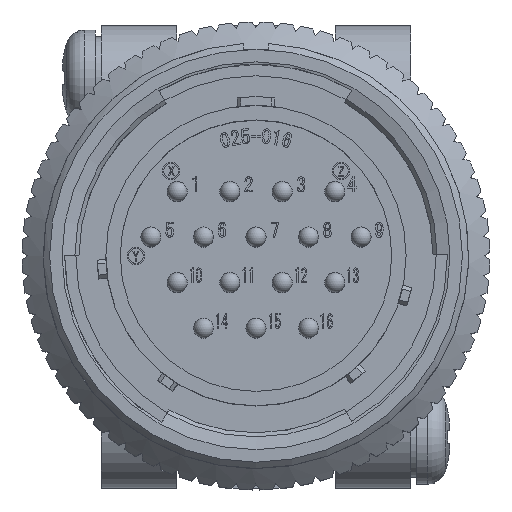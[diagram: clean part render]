
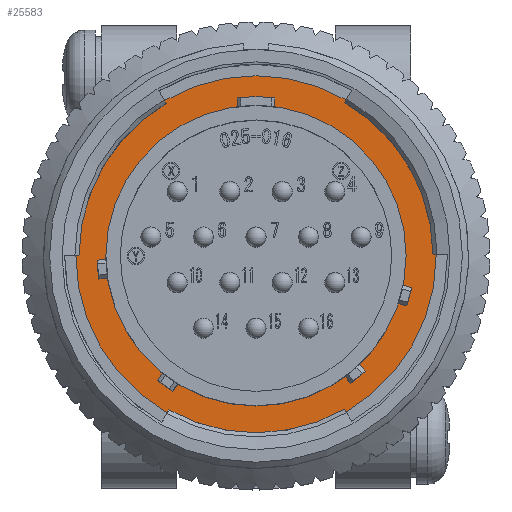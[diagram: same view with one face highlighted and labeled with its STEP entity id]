
A CAD part, top view. The second image highlights one B-rep face of the part: STEP entity #25583.
In plain terms, the highlighted planar face has unit normal (0, 0, 1).
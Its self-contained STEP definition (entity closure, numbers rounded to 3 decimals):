
#748 = CARTESIAN_POINT ( 'NONE',  ( 14.4, 0., -10.1 ) ) ;
#6894 = EDGE_CURVE ( 'NONE', #25721, #25721, #54791, .T. ) ;
#7146 = DIRECTION ( 'NONE',  ( 1., 0., 0. ) ) ;
#7484 = FACE_BOUND ( 'NONE', #29465, .T. ) ;
#7578 = EDGE_LOOP ( 'NONE', ( #22791 ) ) ;
#9939 = DIRECTION ( 'NONE',  ( 0., 0., 1. ) ) ;
#21018 = CARTESIAN_POINT ( 'NONE',  ( 0., 0., -10.1 ) ) ;
#22791 = ORIENTED_EDGE ( 'NONE', *, *, #45555, .T. ) ;
#22952 = CARTESIAN_POINT ( 'NONE',  ( 0., 0., -10.1 ) ) ;
#25583 = ADVANCED_FACE ( 'NONE', ( #7484, #37059 ), #33866, .T. ) ;
#25693 = AXIS2_PLACEMENT_3D ( 'NONE', #22952, #55048, #7146 ) ;
#25721 = VERTEX_POINT ( 'NONE', #35286 ) ;
#26336 = DIRECTION ( 'NONE',  ( 1., 0., 0. ) ) ;
#29465 = EDGE_LOOP ( 'NONE', ( #65213 ) ) ;
#31318 = AXIS2_PLACEMENT_3D ( 'NONE', #21018, #9939, #47686 ) ;
#33866 = PLANE ( 'NONE',  #25693 ) ;
#35286 = CARTESIAN_POINT ( 'NONE',  ( 12., 0., -10.1 ) ) ;
#37059 = FACE_OUTER_BOUND ( 'NONE', #7578, .T. ) ;
#44250 = AXIS2_PLACEMENT_3D ( 'NONE', #47802, #58648, #26336 ) ;
#44315 = VERTEX_POINT ( 'NONE', #748 ) ;
#45555 = EDGE_CURVE ( 'NONE', #44315, #44315, #66896, .T. ) ;
#47686 = DIRECTION ( 'NONE',  ( 1., 0., 0. ) ) ;
#47802 = CARTESIAN_POINT ( 'NONE',  ( 0., 0., -10.1 ) ) ;
#54791 = CIRCLE ( 'NONE', #44250, 12. ) ;
#55048 = DIRECTION ( 'NONE',  ( 0., 0., 1. ) ) ;
#58648 = DIRECTION ( 'NONE',  ( 0., 0., 1. ) ) ;
#65213 = ORIENTED_EDGE ( 'NONE', *, *, #6894, .F. ) ;
#66896 = CIRCLE ( 'NONE', #31318, 14.4 ) ;
